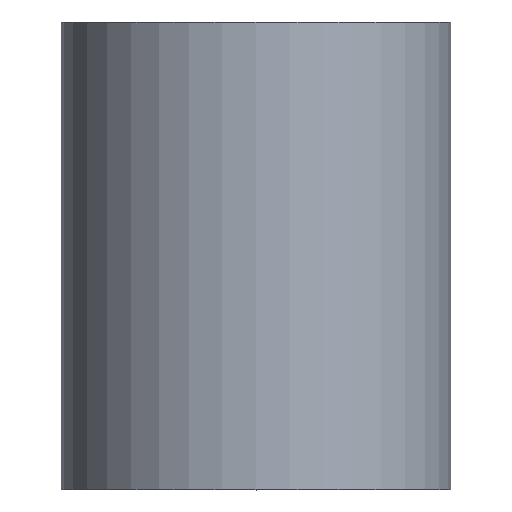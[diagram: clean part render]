
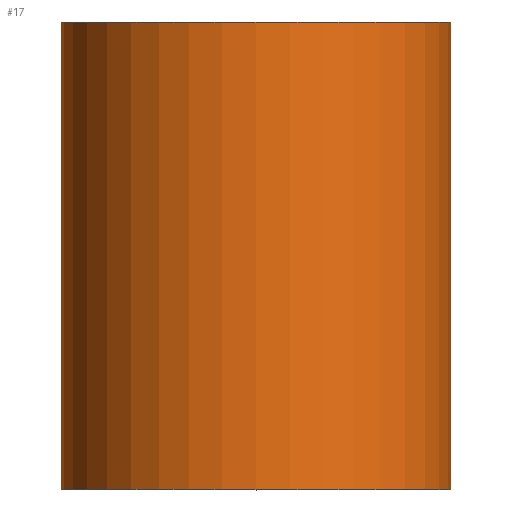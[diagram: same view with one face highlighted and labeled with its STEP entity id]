
A CAD part, top view. The second image highlights one B-rep face of the part: STEP entity #17.
In plain terms, the highlighted cylindrical face has radius 10 mm (diameter 20 mm), a full revolution.
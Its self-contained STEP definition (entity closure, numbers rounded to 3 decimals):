
#17 = ADVANCED_FACE('',(#18),#31,.T.);
#18 = FACE_BOUND('',#19,.T.);
#19 = EDGE_LOOP('',(#20,#54,#77,#104));
#20 = ORIENTED_EDGE('',*,*,#21,.F.);
#21 = EDGE_CURVE('',#22,#22,#24,.T.);
#22 = VERTEX_POINT('',#23);
#23 = CARTESIAN_POINT('',(506.,12.,-28.5));
#24 = SURFACE_CURVE('',#25,(#30,#42),.PCURVE_S1.);
#25 = CIRCLE('',#26,10.);
#26 = AXIS2_PLACEMENT_3D('',#27,#28,#29);
#27 = CARTESIAN_POINT('',(506.,12.,-38.5));
#28 = DIRECTION('',(0.,1.,0.));
#29 = DIRECTION('',(0.,-0.,1.));
#30 = PCURVE('',#31,#36);
#31 = CYLINDRICAL_SURFACE('',#32,10.);
#32 = AXIS2_PLACEMENT_3D('',#33,#34,#35);
#33 = CARTESIAN_POINT('',(506.,-12.,-38.5));
#34 = DIRECTION('',(0.,1.,0.));
#35 = DIRECTION('',(0.,-0.,1.));
#36 = DEFINITIONAL_REPRESENTATION('',(#37),#41);
#37 = LINE('',#38,#39);
#38 = CARTESIAN_POINT('',(0.,24.));
#39 = VECTOR('',#40,1.);
#40 = DIRECTION('',(1.,0.));
#41 = ( GEOMETRIC_REPRESENTATION_CONTEXT(2) 
PARAMETRIC_REPRESENTATION_CONTEXT() REPRESENTATION_CONTEXT('2D SPACE',''
  ) );
#42 = PCURVE('',#43,#48);
#43 = PLANE('',#44);
#44 = AXIS2_PLACEMENT_3D('',#45,#46,#47);
#45 = CARTESIAN_POINT('',(506.,12.,-38.5));
#46 = DIRECTION('',(0.,1.,0.));
#47 = DIRECTION('',(0.,-0.,1.));
#48 = DEFINITIONAL_REPRESENTATION('',(#49),#53);
#49 = CIRCLE('',#50,10.);
#50 = AXIS2_PLACEMENT_2D('',#51,#52);
#51 = CARTESIAN_POINT('',(0.,0.));
#52 = DIRECTION('',(1.,0.));
#53 = ( GEOMETRIC_REPRESENTATION_CONTEXT(2) 
PARAMETRIC_REPRESENTATION_CONTEXT() REPRESENTATION_CONTEXT('2D SPACE',''
  ) );
#54 = ORIENTED_EDGE('',*,*,#55,.F.);
#55 = EDGE_CURVE('',#56,#22,#58,.T.);
#56 = VERTEX_POINT('',#57);
#57 = CARTESIAN_POINT('',(506.,-12.,-28.5));
#58 = SEAM_CURVE('',#59,(#63,#70),.PCURVE_S1.);
#59 = LINE('',#60,#61);
#60 = CARTESIAN_POINT('',(506.,-12.,-28.5));
#61 = VECTOR('',#62,1.);
#62 = DIRECTION('',(0.,1.,0.));
#63 = PCURVE('',#31,#64);
#64 = DEFINITIONAL_REPRESENTATION('',(#65),#69);
#65 = LINE('',#66,#67);
#66 = CARTESIAN_POINT('',(6.283,-0.));
#67 = VECTOR('',#68,1.);
#68 = DIRECTION('',(0.,1.));
#69 = ( GEOMETRIC_REPRESENTATION_CONTEXT(2) 
PARAMETRIC_REPRESENTATION_CONTEXT() REPRESENTATION_CONTEXT('2D SPACE',''
  ) );
#70 = PCURVE('',#31,#71);
#71 = DEFINITIONAL_REPRESENTATION('',(#72),#76);
#72 = LINE('',#73,#74);
#73 = CARTESIAN_POINT('',(0.,-0.));
#74 = VECTOR('',#75,1.);
#75 = DIRECTION('',(0.,1.));
#76 = ( GEOMETRIC_REPRESENTATION_CONTEXT(2) 
PARAMETRIC_REPRESENTATION_CONTEXT() REPRESENTATION_CONTEXT('2D SPACE',''
  ) );
#77 = ORIENTED_EDGE('',*,*,#78,.T.);
#78 = EDGE_CURVE('',#56,#56,#79,.T.);
#79 = SURFACE_CURVE('',#80,(#85,#92),.PCURVE_S1.);
#80 = CIRCLE('',#81,10.);
#81 = AXIS2_PLACEMENT_3D('',#82,#83,#84);
#82 = CARTESIAN_POINT('',(506.,-12.,-38.5));
#83 = DIRECTION('',(0.,1.,0.));
#84 = DIRECTION('',(0.,-0.,1.));
#85 = PCURVE('',#31,#86);
#86 = DEFINITIONAL_REPRESENTATION('',(#87),#91);
#87 = LINE('',#88,#89);
#88 = CARTESIAN_POINT('',(0.,0.));
#89 = VECTOR('',#90,1.);
#90 = DIRECTION('',(1.,0.));
#91 = ( GEOMETRIC_REPRESENTATION_CONTEXT(2) 
PARAMETRIC_REPRESENTATION_CONTEXT() REPRESENTATION_CONTEXT('2D SPACE',''
  ) );
#92 = PCURVE('',#93,#98);
#93 = PLANE('',#94);
#94 = AXIS2_PLACEMENT_3D('',#95,#96,#97);
#95 = CARTESIAN_POINT('',(506.,-12.,-38.5));
#96 = DIRECTION('',(0.,1.,0.));
#97 = DIRECTION('',(0.,-0.,1.));
#98 = DEFINITIONAL_REPRESENTATION('',(#99),#103);
#99 = CIRCLE('',#100,10.);
#100 = AXIS2_PLACEMENT_2D('',#101,#102);
#101 = CARTESIAN_POINT('',(0.,0.));
#102 = DIRECTION('',(1.,0.));
#103 = ( GEOMETRIC_REPRESENTATION_CONTEXT(2) 
PARAMETRIC_REPRESENTATION_CONTEXT() REPRESENTATION_CONTEXT('2D SPACE',''
  ) );
#104 = ORIENTED_EDGE('',*,*,#55,.T.);
